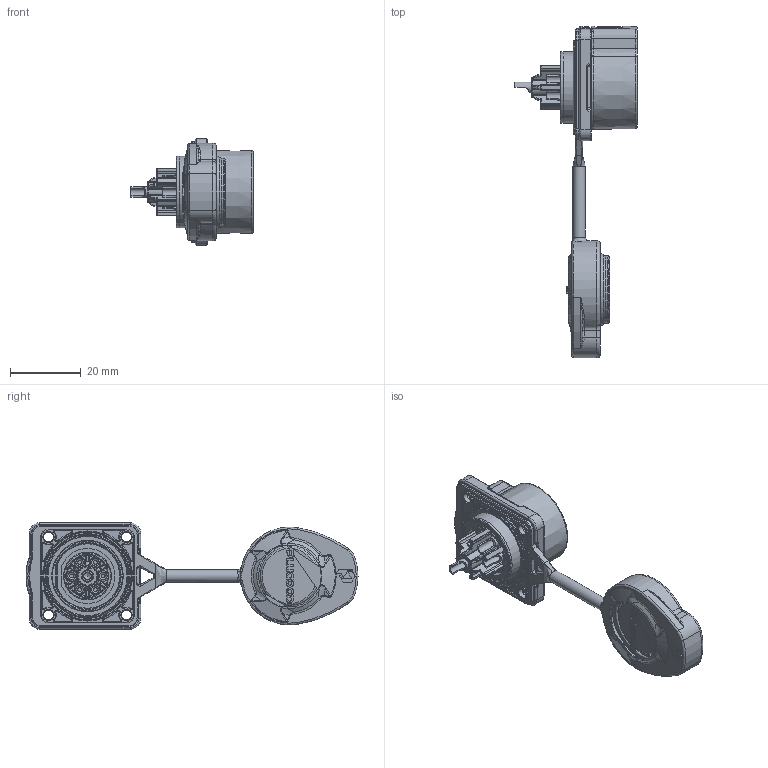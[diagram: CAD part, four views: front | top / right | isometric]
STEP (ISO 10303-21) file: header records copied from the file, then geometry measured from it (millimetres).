
FILE_DESCRIPTION (( 'STEP AP203' ), '1' );
FILE_NAME ('PLG20 7郋侐謂脣釱.STEP', '2025-03-19T12:17:14', ( '' ), ( '' ), 'SwSTEP 2.0', 'SolidWorks 2024', '' );
FILE_SCHEMA (( 'CONFIG_CONTROL_DESIGN' ));
Length unit declared in the file: millimetre
Products named in the file (1): PLG20 7芯四孔插座
Bounding box: 34.5 x 93.64 x 30 mm (x, y, z)
Volume: 12954.2 mm3; surface area: 11567.8 mm2
Topology: 1 solids, 9 shells, 2040 faces, 5026 edges, 3052 vertices
Faces by surface type: cylinder 573, plane 554, torus 371, bspline 367, cone 101, sphere 74
Full cylindrical faces by diameter (mm): 1.061 x1, 2.05 x7, 2.088 x1, 2.15 x7, 2.8 x4, 3 x7, 3.15 x8, 3.3 x4, 3.5 x2, 6 x4, 13.5 x1, 16.5 x1, 19.1 x1, 19.5 x3, 20.186 x1, 22.3 x1, 23.5 x1, 25 x1
Entity records: 71170 total; most frequent: CARTESIAN_POINT 26485, ORIENTED_EDGE 9618, DIRECTION 8758, EDGE_CURVE 4809, AXIS2_PLACEMENT_3D 3487, VERTEX_POINT 2994, EDGE_LOOP 2263, FACE_OUTER_BOUND 2118
